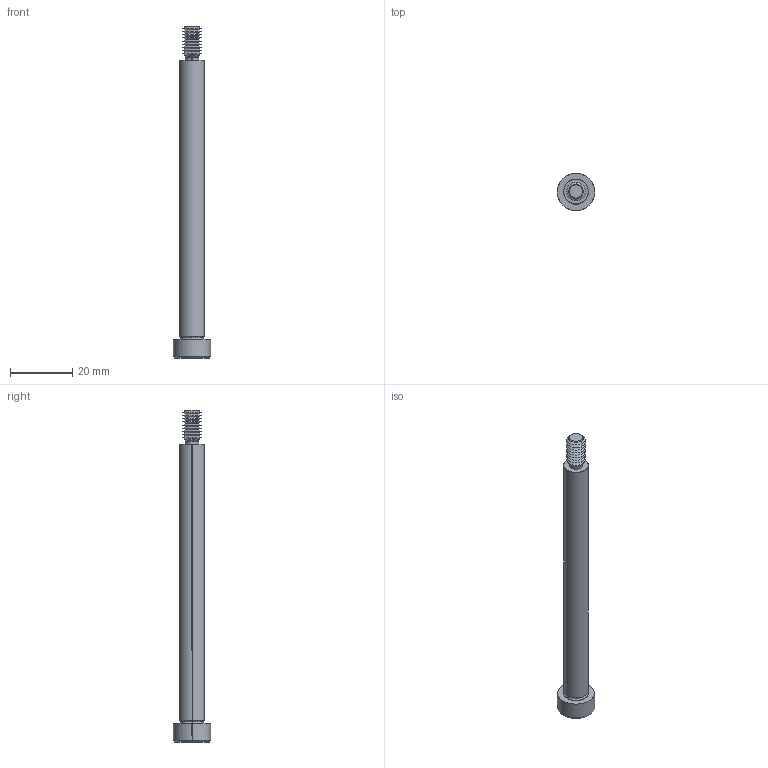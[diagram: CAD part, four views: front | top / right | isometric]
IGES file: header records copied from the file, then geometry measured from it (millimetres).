
Start section: SolidWorks IGES file using analytic representation for surfaces
Global section: file name: C:\Users\IanO\Documents\Temp Folder\GENERAL\SCREW REVISION\P0130_v2\P0130.T5_v2_20220106_IGES\P0130.080-090-T5.igs; native system: SolidWorks 2019; preprocessor: SolidWorks 2019; author: IanO; date: 220106.223936; units: millimetre
Bounding box: 12 x 12 x 107 mm (x, y, z)
Surface area: 3098.2 mm2 (no closed solid volume)
Topology: 0 solids, 0 shells, 80 faces, 580 edges, 578 vertices
Faces by surface type: revolution 60, bspline 20
